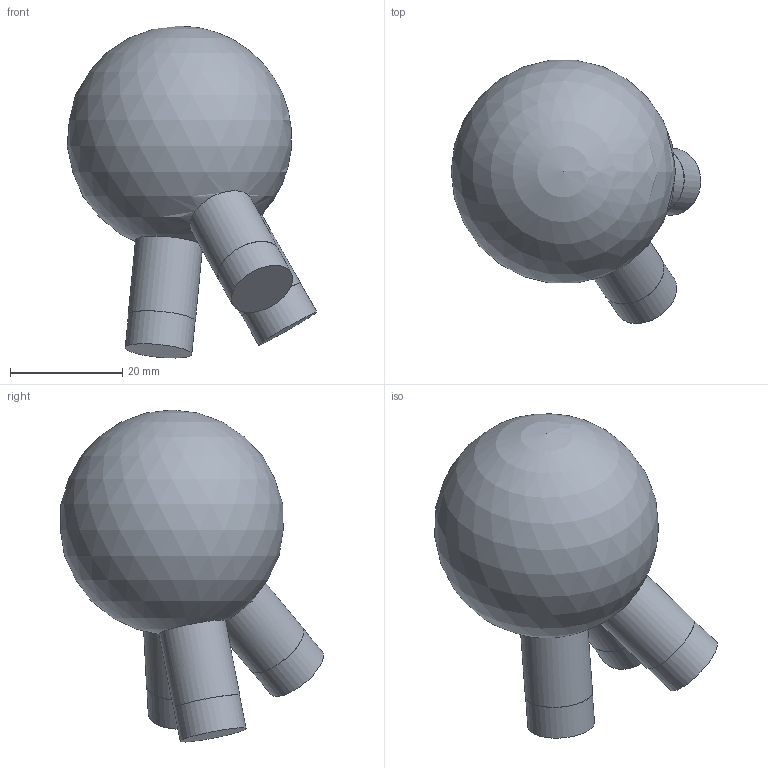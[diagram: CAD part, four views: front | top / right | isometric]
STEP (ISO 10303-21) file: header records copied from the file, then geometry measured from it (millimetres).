
FILE_DESCRIPTION(('Open CASCADE Model'),'2;1');
FILE_NAME('Open CASCADE Shape Model','2026-10-21T12:47:57',('Author'),( 'Open CASCADE'),'Open CASCADE STEP processor 7.9','Open CASCADE 7.9' ,'Unknown');
FILE_SCHEMA(('AUTOMOTIVE_DESIGN { 1 0 10303 214 1 1 1 1 }'));
Length unit declared in the file: millimetre
Products named in the file (1): Open CASCADE STEP translator 7.9 164
Bounding box: 44.39 x 46.8 x 59.06 mm (x, y, z)
Volume: 39897.1 mm3; surface area: 7202.6 mm2
Topology: 1 solids, 1 shells, 13 faces, 28 edges, 19 vertices
Faces by surface type: cylinder 6, plane 6, sphere 1
Full cylindrical faces by diameter (mm): 11.9 x3, 12 x3
Entity records: 1105 total; most frequent: CARTESIAN_POINT 516, DIRECTION 118, ORIENTED_EDGE 54, PCURVE 54, DEFINITIONAL_REPRESENTATION 54, LINE 39, VECTOR 39, AXIS2_PLACEMENT_3D 35
